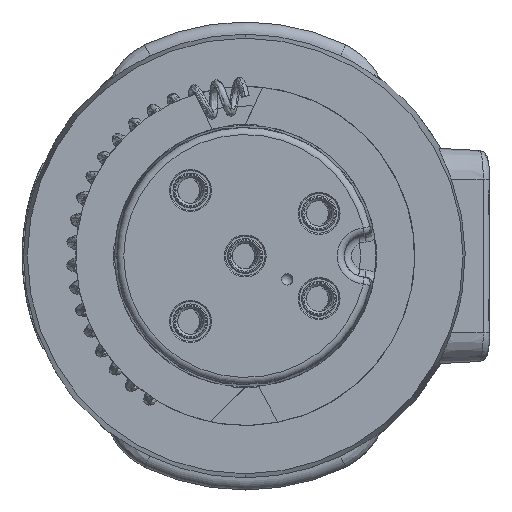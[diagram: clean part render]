
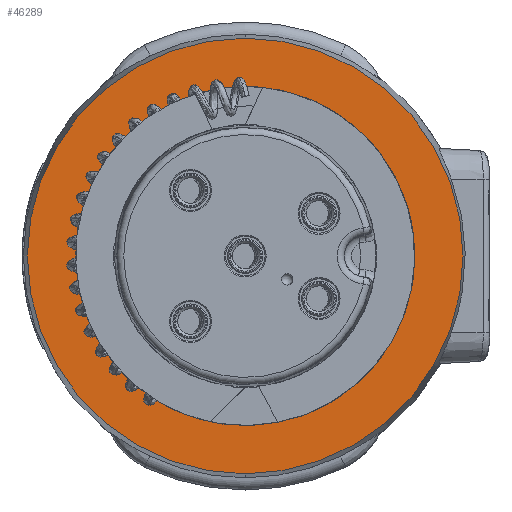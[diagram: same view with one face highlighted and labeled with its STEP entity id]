
A CAD part, left-side view. The second image highlights one B-rep face of the part: STEP entity #46289.
In plain terms, the highlighted planar face has unit normal (-1, 0, 0).
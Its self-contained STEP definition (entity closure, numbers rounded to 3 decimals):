
#14454=CARTESIAN_POINT('',(15.8,0.,0.));
#14455=DIRECTION('',(-1.,0.,0.));
#14456=DIRECTION('',(0.,0.,1.));
#14457=AXIS2_PLACEMENT_3D('',#14454,#14455,#14456);
#14459=CARTESIAN_POINT('',(15.8,0.,0.));
#14460=DIRECTION('',(1.,0.,0.));
#14461=DIRECTION('',(0.,0.,1.));
#14462=AXIS2_PLACEMENT_3D('',#14459,#14460,#14461);
#14464=CARTESIAN_POINT('',(15.8,0.,0.));
#14465=DIRECTION('',(1.,0.,0.));
#14466=DIRECTION('',(0.,1.,0.));
#14467=AXIS2_PLACEMENT_3D('',#14464,#14465,#14466);
#14478=CARTESIAN_POINT('',(15.8,0.,0.));
#14479=DIRECTION('',(1.,0.,0.));
#14480=DIRECTION('',(0.,-1.,0.));
#14481=AXIS2_PLACEMENT_3D('',#14478,#14479,#14480);
#22881=CARTESIAN_POINT('',(15.8,0.,9.35));
#22882=CARTESIAN_POINT('',(15.8,0.,-9.35));
#22883=VERTEX_POINT('',#22881);
#22884=VERTEX_POINT('',#22882);
#23391=CARTESIAN_POINT('',(15.8,6.2,0.));
#23392=CARTESIAN_POINT('',(15.8,-6.2,0.));
#23393=VERTEX_POINT('',#23391);
#23394=VERTEX_POINT('',#23392);
#46274=CARTESIAN_POINT('',(15.8,0.,0.));
#46275=DIRECTION('',(1.,0.,0.));
#46276=DIRECTION('',(0.,0.,-1.));
#46277=AXIS2_PLACEMENT_3D('',#46274,#46275,#46276);
#46278=PLANE('',#46277);
#46279=ORIENTED_EDGE('',*,*,#45617,.F.);
#46280=ORIENTED_EDGE('',*,*,#45474,.T.);
#46281=EDGE_LOOP('',(#46279,#46280));
#46282=FACE_OUTER_BOUND('',#46281,.F.);
#46284=ORIENTED_EDGE('',*,*,#46283,.F.);
#46286=ORIENTED_EDGE('',*,*,#46285,.F.);
#46287=EDGE_LOOP('',(#46284,#46286));
#46288=FACE_BOUND('',#46287,.F.);
#46289=ADVANCED_FACE('',(#46282,#46288),#46278,.F.);
#14458=CIRCLE('',#14457,9.35);
#14463=CIRCLE('',#14462,9.35);
#14468=CIRCLE('',#14467,6.2);
#14482=CIRCLE('',#14481,6.2);
#45474=EDGE_CURVE('',#22883,#22884,#14463,.T.);
#45617=EDGE_CURVE('',#22883,#22884,#14458,.T.);
#46283=EDGE_CURVE('',#23393,#23394,#14468,.T.);
#46285=EDGE_CURVE('',#23394,#23393,#14482,.T.);
